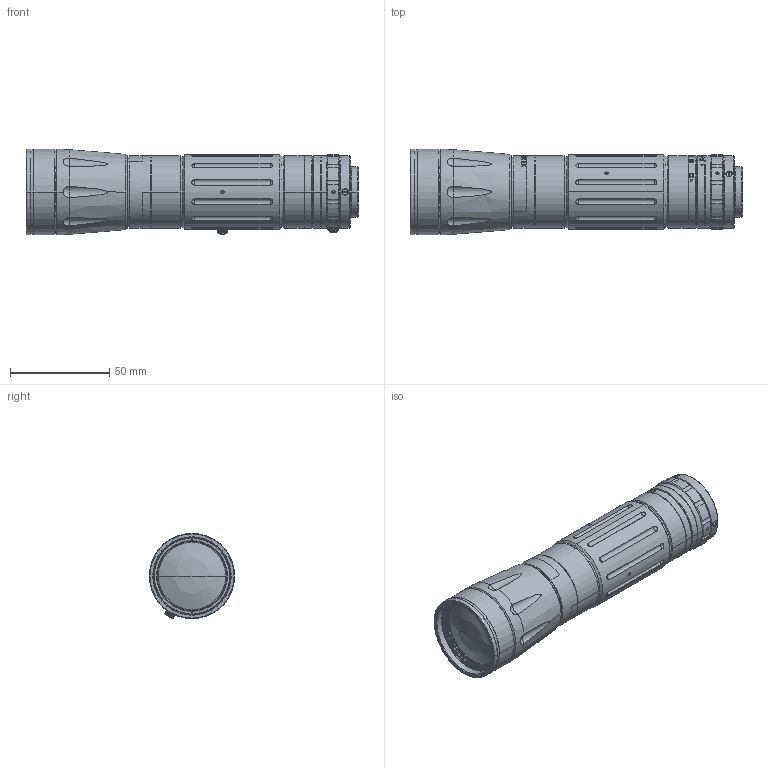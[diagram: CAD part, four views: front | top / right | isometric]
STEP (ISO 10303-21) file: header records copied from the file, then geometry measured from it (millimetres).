
FILE_DESCRIPTION((''),'2;1');
FILE_NAME('PRT0001','2020-11-12T18:50:19',('dcsongs'),(''),'CREO PARAMETRIC BY PTC INC, 2019224','CREO PARAMETRIC BY PTC INC, 2019224','');
FILE_SCHEMA(('AUTOMOTIVE_DESIGN { 1 0 10303 214 1 1 1 1 }'));
Length unit declared in the file: millimetre
Products named in the file (1): PRT0001
Bounding box: 167.42 x 43 x 43 mm (x, y, z)
Volume: 180045.5 mm3; surface area: 31368 mm2
Topology: 1 solids, 20 shells, 1399 faces, 3665 edges, 2391 vertices
Faces by surface type: bspline 480, plane 382, cylinder 337, cone 145, sphere 36, torus 12, extrusion 7
Entity records: 63728 total; most frequent: CARTESIAN_POINT 32135, ORIENTED_EDGE 7308, DIRECTION 4998, EDGE_CURVE 3654, VERTEX_POINT 2389, AXIS2_PLACEMENT_3D 1797, EDGE_LOOP 1527, VECTOR 1404
